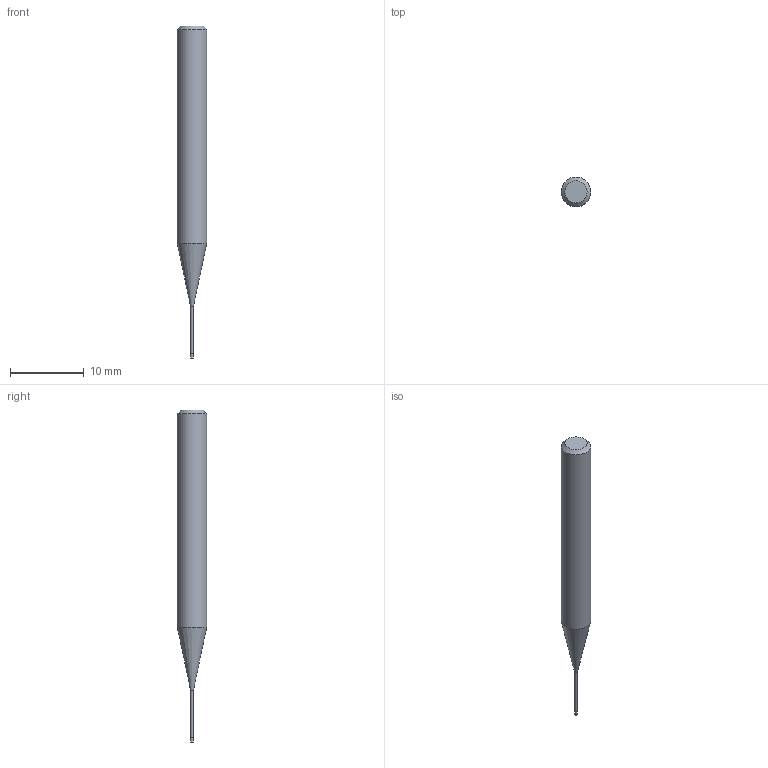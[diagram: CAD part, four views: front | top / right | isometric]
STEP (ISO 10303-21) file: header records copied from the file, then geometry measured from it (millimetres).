
FILE_DESCRIPTION((''),'2;1');
FILE_NAME('C:\Users\nsx150\AppData\Local\Temp\Mastercam 2021\17T8Q8S9EB\TEMP.step','2021-04-21T14:24:07',(''),(''),'STEP Write','Mastercam 2021 ... CNC Software, Inc.','');
FILE_SCHEMA(('AUTOMOTIVE_DESIGN'));
Length unit declared in the file: millimetre
Products named in the file (1): None
Bounding box: 4 x 4 x 45 mm (x, y, z)
Volume: 408.9 mm3; surface area: 447.3 mm2
Topology: 2 solids, 2 shells, 9 faces, 12 edges, 7 vertices
Faces by surface type: plane 4, cylinder 3, cone 2
Full cylindrical faces by diameter (mm): 0.37 x1, 0.4 x1, 4 x1
Entity records: 211 total; most frequent: DIRECTION 36, CARTESIAN_POINT 25, AXIS2_PLACEMENT_3D 18, ORIENTED_EDGE 14, EDGE_LOOP 14, STYLED_ITEM 12, ADVANCED_FACE 9, FACE_BOUND 8
